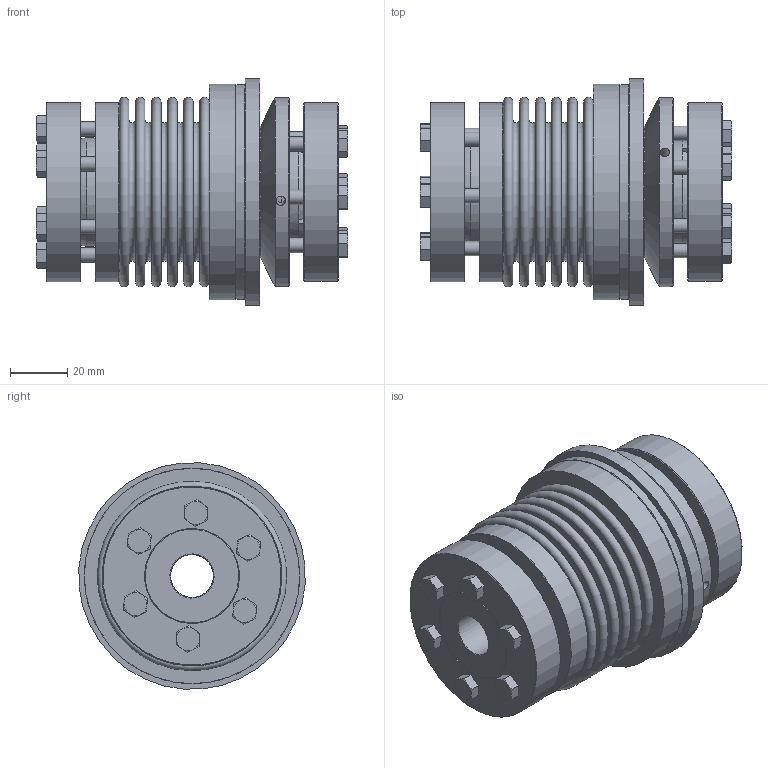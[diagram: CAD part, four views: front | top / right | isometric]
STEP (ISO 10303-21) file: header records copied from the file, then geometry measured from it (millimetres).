
FILE_DESCRIPTION( ( 'Unknown' ), '1' );
FILE_NAME( 'K:/Konstruktion/Korrigierte 3D Modelle/KBK-B-AA/KBK-BAA-60-108.stp', 'Unknown', ( 'Unknown' ), ( 'Unknown' ), 'PSStep 16.0.42', 'Unknown', ' ' );
FILE_SCHEMA( ( 'AUTOMOTIVE_DESIGN { 1 0 10303 214 1 1 1 1 }' ) );
Length unit declared in the file: millimetre
Products named in the file (18): Stellring 60_0; KBK L-A-60 Grundkörper_0; din_en_24017_m5x20_0; Druckring L-A-60_0; Druckring 60_0; BA6-60; DR60_Standard; Hex Screw GradeC_DIN_ISO 4018 - M5 x 25-NN; BA60_Standard; A-60; Assem1; BL60_Standard_0; Flansch BK60
Assembly tree (27 placements, depth 4):
  Assem1
    BL60_Standard_0
    Flansch BK60
    BA6-60
      DR60_Standard
      Hex Screw GradeC_DIN_ISO 4018 - M5 x 25-NN  x6
      BA60_Standard
    A-60
      Stellring 60_0
        Stellring 60_0
      Druckring 60_0
        Druckring 60_0
      KBK L-A-60 Grundkörper_0
        KBK L-A-60 Grundkörper_0
      din_en_24017_m5x20_0  x6
        din_en_24017_m5x20_0
      Druckring L-A-60_0
        Druckring L-A-60_0
Bounding box: 108.55 x 78.76 x 78.76 mm (x, y, z)
Volume: 224759.5 mm3; surface area: 126065.7 mm2
Topology: 20 solids, 20 shells, 412 faces, 844 edges, 534 vertices
Faces by surface type: plane 190, cone 118, cylinder 72, torus 32
Full cylindrical faces by diameter (mm): 3.242 x3, 4 x3, 4.134 x6, 4.2 x6, 5 x12, 5.5 x12, 6.88 x6, 15 x2, 33 x1, 35 x2, 35.937 x1, 37.937 x1, 42 x1, 46 x2, 46.5 x1, 47 x1, 56.3 x2, 57.3 x2, 61.3 x1, 62.5 x3, 66 x1, 75 x2, 79 x1
Entity records: 7678 total; most frequent: CARTESIAN_POINT 1272, DIRECTION 998, ORIENTED_EDGE 618, AXIS2_PLACEMENT_3D 475, EDGE_LOOP 424, EDGE_CURVE 309, FACE_OUTER_BOUND 301, VERTEX_POINT 273
